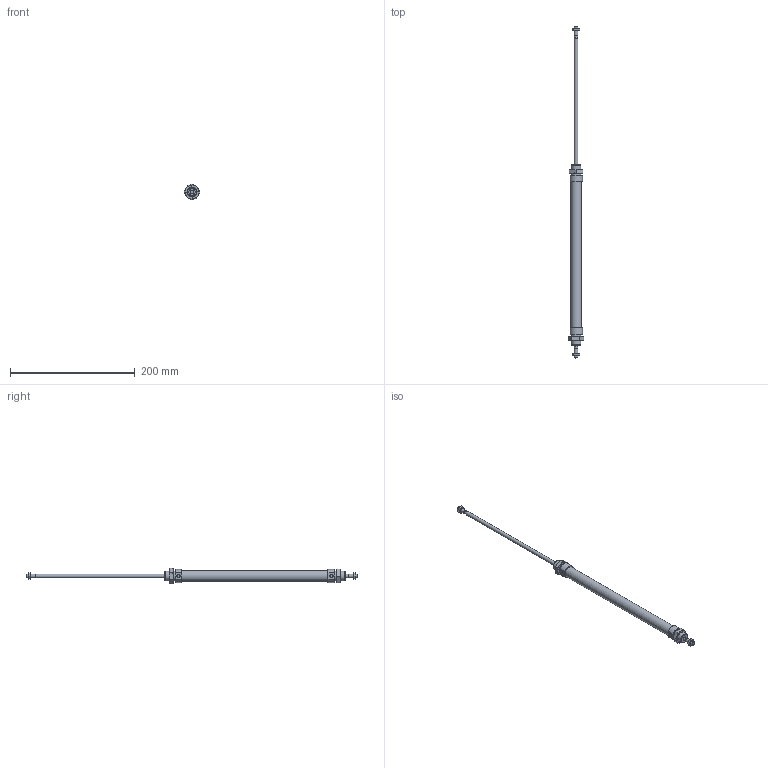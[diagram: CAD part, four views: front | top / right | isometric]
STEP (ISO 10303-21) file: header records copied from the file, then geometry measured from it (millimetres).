
FILE_DESCRIPTION((''),'2;1');
FILE_NAME('I:\Area Tecnica\Disegni\VARIE-3D\Componenti\1280\1282_##_####_#\1282_16_0200.iam.stp','2009-06-03T15:24:53',(''),(''),'Autodesk Inventor 2010','Autodesk Inventor 2010','');
FILE_SCHEMA(('AUTOMOTIVE_DESIGN { 1 0 10303 214 1 1 1 1 }'));
Length unit declared in the file: millimetre
Products named in the file (5): 1282_16_0200; C1282_16_200; S1282_16_200; 1200_16_05; 1200_16_06
Assembly tree (6 placements, depth 2):
  1282_16_0200
    C1282_16_200
    S1282_16_200
    1200_16_05  x2
    1200_16_06  x2
Bounding box: 25.4 x 532 x 25.4 mm (x, y, z)
Volume: 78656.9 mm3; surface area: 35207.5 mm2
Topology: 6 solids, 6 shells, 135 faces, 283 edges, 168 vertices
Faces by surface type: plane 56, cone 52, bspline 16, cylinder 11
Full cylindrical faces by diameter (mm): 5 x2, 6 x4, 16 x2, 17.2 x1
Entity records: 2543 total; most frequent: CARTESIAN_POINT 619, DIRECTION 358, ORIENTED_EDGE 316, AXIS2_PLACEMENT_3D 159, EDGE_CURVE 158, EDGE_LOOP 124, VERTEX_POINT 106, STYLED_ITEM 93
